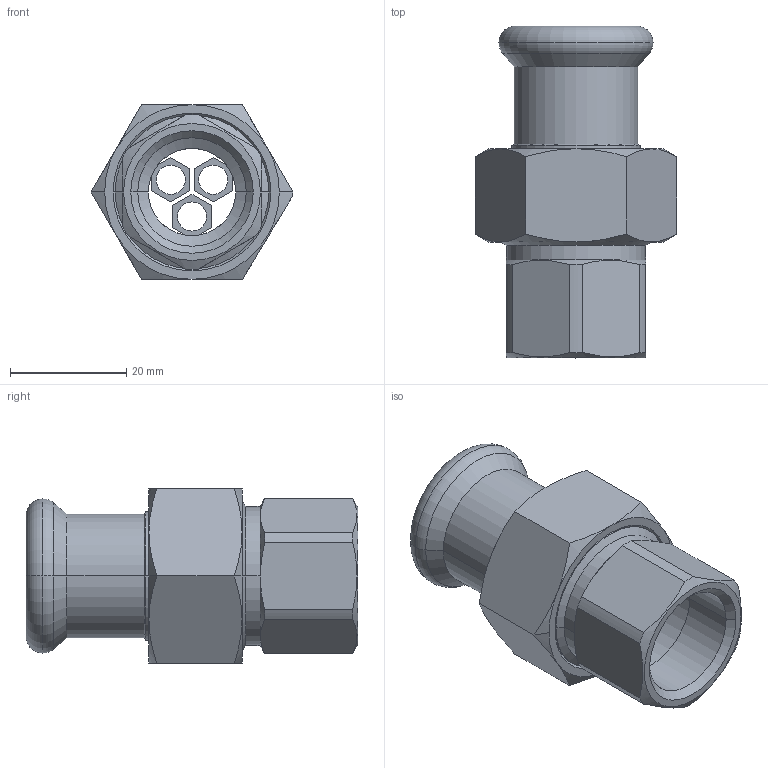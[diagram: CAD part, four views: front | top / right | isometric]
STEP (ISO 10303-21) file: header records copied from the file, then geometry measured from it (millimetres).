
FILE_DESCRIPTION(('OneSpaceDesigner STEP Export'),'2;1');
FILE_NAME('R2738 18xRp1-2.stp','2010-06-10T14:19:58',(''),(''),'OneSpace Designer STEP processor for AP214 (Solid Model)','OneSpace Modeling 15.00A 14-Mar-2007 (C) CoCreate Software GmbH','');
FILE_SCHEMA(('AUTOMOTIVE_DESIGN { 1 0 10303 214 1 1 1 1 }'));
Length unit declared in the file: millimetre
Products named in the file (2): R2738_18xRp1-2
Assembly tree (1 placements, depth 2):
  R2738_18xRp1-2
    R2738_18xRp1-2
Bounding box: 34.64 x 57 x 30 mm (x, y, z)
Volume: 15649.4 mm3; surface area: 11096.4 mm2
Topology: 1 solids, 1 shells, 147 faces, 352 edges, 212 vertices
Faces by surface type: cone 49, plane 46, cylinder 44, torus 8
Entity records: 5350 total; most frequent: CARTESIAN_POINT 2384, ORIENTED_EDGE 704, DIRECTION 468, EDGE_CURVE 352, VERTEX_POINT 212, VECTOR 164, LINE 164, EDGE_LOOP 160
